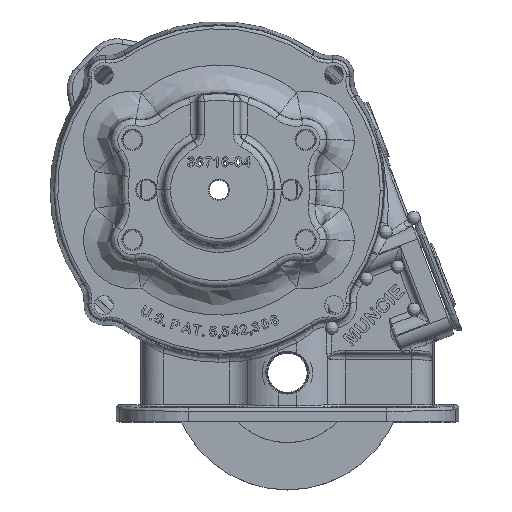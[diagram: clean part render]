
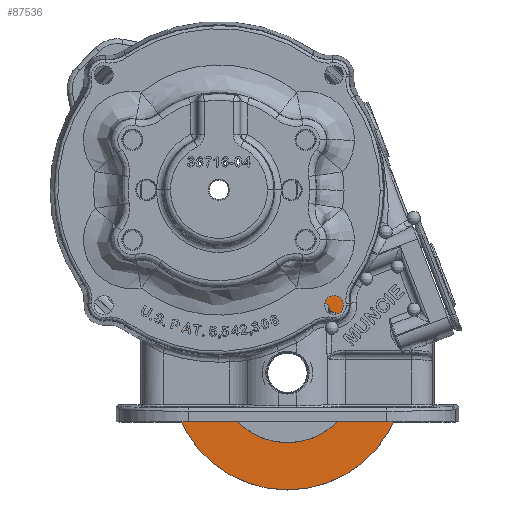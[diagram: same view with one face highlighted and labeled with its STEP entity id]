
A CAD part, top view. The second image highlights one B-rep face of the part: STEP entity #87536.
In plain terms, the highlighted planar face has unit normal (0, 0, 1).
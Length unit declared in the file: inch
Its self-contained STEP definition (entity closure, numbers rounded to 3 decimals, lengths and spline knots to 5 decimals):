
#2064 = CARTESIAN_POINT ( 'NONE',  ( 0.29733, -1.46446, -0.27766 ) ) ;
#2065 = DIRECTION ( 'NONE',  ( 0., 0., 1. ) ) ;
#2066 = DIRECTION ( 'NONE',  ( 0., -1., 0. ) ) ;
#2081 = CARTESIAN_POINT ( 'NONE',  ( 0.29733, -1.46446, -0.27766 ) ) ;
#2082 = DIRECTION ( 'NONE',  ( 0., 0., 1. ) ) ;
#2083 = DIRECTION ( 'NONE',  ( 0., -1., 0. ) ) ;
#2109 = CARTESIAN_POINT ( 'NONE',  ( 0.29733, -1.46446, -0.27766 ) ) ;
#2110 = DIRECTION ( 'NONE',  ( 0., 0., 1. ) ) ;
#2111 = DIRECTION ( 'NONE',  ( 0., -1., 0. ) ) ;
#2112 = CARTESIAN_POINT ( 'NONE',  ( 0.29733, -1.46446, -0.27766 ) ) ;
#2113 = DIRECTION ( 'NONE',  ( 0., 0., 1. ) ) ;
#2114 = DIRECTION ( 'NONE',  ( 0., -1., 0. ) ) ;
#18842 = CARTESIAN_POINT ( 'NONE',  ( 0.29733, -2.66446, -0.27766 ) ) ;
#18854 = CARTESIAN_POINT ( 'NONE',  ( 0.29733, -0.26446, -0.27766 ) ) ;
#18873 = CARTESIAN_POINT ( 'NONE',  ( 0.29733, 0.67054, -0.27766 ) ) ;
#18894 = CARTESIAN_POINT ( 'NONE',  ( 0.29733, -3.59946, -0.27766 ) ) ;
#24256 = EDGE_LOOP ( 'NONE', ( #66203, #66165 ) ) ;
#24278 = EDGE_LOOP ( 'NONE', ( #66207, #66205 ) ) ;
#34223 = AXIS2_PLACEMENT_3D ( 'NONE', #37134, #37141, #37142 ) ;
#37134 = CARTESIAN_POINT ( 'NONE',  ( 0.29733, -1.46446, -0.27766 ) ) ;
#37137 = FACE_OUTER_BOUND ( 'NONE', #24278, .T. ) ;
#37138 = FACE_BOUND ( 'NONE', #24256, .T. ) ;
#37139 = PLANE ( 'NONE',  #34223 ) ;
#37141 = DIRECTION ( 'NONE',  ( 0., 0., 1. ) ) ;
#37142 = DIRECTION ( 'NONE',  ( 0., -1., 0. ) ) ;
#50022 = EDGE_CURVE ( 'NONE', #66297, #66281, #71617, .T. ) ;
#50028 = EDGE_CURVE ( 'NONE', #66265, #66263, #71564, .T. ) ;
#50038 = EDGE_CURVE ( 'NONE', #66263, #66265, #71504, .T. ) ;
#50039 = EDGE_CURVE ( 'NONE', #66281, #66297, #71499, .T. ) ;
#66165 = ORIENTED_EDGE ( 'NONE', *, *, #50028, .F. ) ;
#66203 = ORIENTED_EDGE ( 'NONE', *, *, #50038, .F. ) ;
#66205 = ORIENTED_EDGE ( 'NONE', *, *, #50022, .T. ) ;
#66207 = ORIENTED_EDGE ( 'NONE', *, *, #50039, .T. ) ;
#66263 = VERTEX_POINT ( 'NONE', #18854 ) ;
#66265 = VERTEX_POINT ( 'NONE', #18842 ) ;
#66281 = VERTEX_POINT ( 'NONE', #18873 ) ;
#66297 = VERTEX_POINT ( 'NONE', #18894 ) ;
#71489 = AXIS2_PLACEMENT_3D ( 'NONE', #2112, #2113, #2114 ) ;
#71496 = AXIS2_PLACEMENT_3D ( 'NONE', #2109, #2110, #2111 ) ;
#71499 = CIRCLE ( 'NONE', #71489, 2.135 ) ;
#71504 = CIRCLE ( 'NONE', #71496, 1.2 ) ;
#71557 = AXIS2_PLACEMENT_3D ( 'NONE', #2081, #2082, #2083 ) ;
#71564 = CIRCLE ( 'NONE', #71557, 1.2 ) ;
#71598 = AXIS2_PLACEMENT_3D ( 'NONE', #2064, #2065, #2066 ) ;
#71617 = CIRCLE ( 'NONE', #71598, 2.135 ) ;
#87536 = ADVANCED_FACE ( 'NONE', ( #37137, #37138 ), #37139, .T. ) ;
